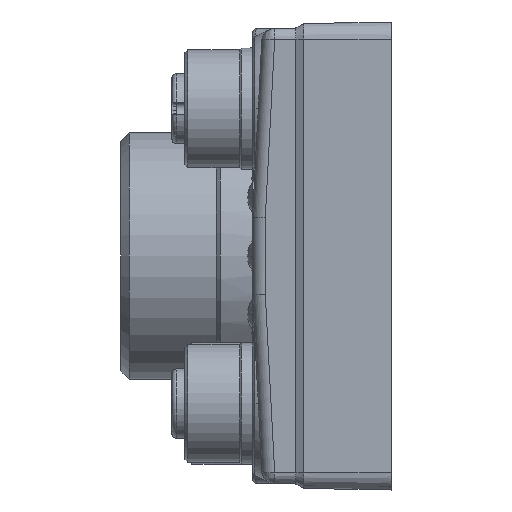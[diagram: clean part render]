
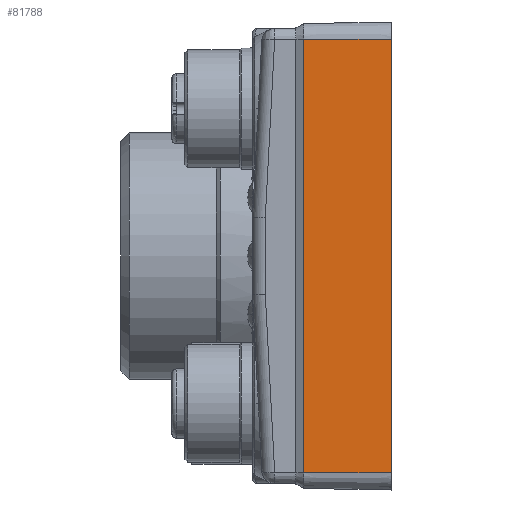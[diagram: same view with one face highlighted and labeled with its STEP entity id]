
A CAD part, left-side view. The second image highlights one B-rep face of the part: STEP entity #81788.
In plain terms, the highlighted planar face has unit normal (-1, 0.018, 0).
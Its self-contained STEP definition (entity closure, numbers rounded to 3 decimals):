
#631 = ORIENTED_EDGE ( 'NONE', *, *, #11032, .T. ) ;
#3904 = LINE ( 'NONE', #74293, #51005 ) ;
#4956 = FACE_OUTER_BOUND ( 'NONE', #66792, .T. ) ;
#7324 = DIRECTION ( 'NONE',  ( -0.017, -1., 0. ) ) ;
#10872 = VECTOR ( 'NONE', #109072, 1000. ) ;
#11032 = EDGE_CURVE ( 'NONE', #38328, #104271, #48737, .T. ) ;
#12322 = VERTEX_POINT ( 'NONE', #20487 ) ;
#15413 = LINE ( 'NONE', #69122, #119036 ) ;
#17602 = VERTEX_POINT ( 'NONE', #65748 ) ;
#20487 = CARTESIAN_POINT ( 'NONE',  ( -77.597, -0.918, 26.619 ) ) ;
#22672 = CARTESIAN_POINT ( 'NONE',  ( -77.421, 9.183, -23.381 ) ) ;
#27046 = PLANE ( 'NONE',  #108711 ) ;
#38328 = VERTEX_POINT ( 'NONE', #65305 ) ;
#44726 = CARTESIAN_POINT ( 'NONE',  ( -77.421, 9.183, -23.381 ) ) ;
#46130 = EDGE_CURVE ( 'NONE', #17602, #104271, #61105, .T. ) ;
#48737 = LINE ( 'NONE', #22672, #102170 ) ;
#51005 = VECTOR ( 'NONE', #114602, 1000. ) ;
#60238 = EDGE_CURVE ( 'NONE', #12322, #17602, #3904, .T. ) ;
#61105 = LINE ( 'NONE', #88986, #10872 ) ;
#65281 = ORIENTED_EDGE ( 'NONE', *, *, #46130, .F. ) ;
#65305 = CARTESIAN_POINT ( 'NONE',  ( -77.421, 9.183, 26.619 ) ) ;
#65748 = CARTESIAN_POINT ( 'NONE',  ( -77.597, -0.918, -23.381 ) ) ;
#66792 = EDGE_LOOP ( 'NONE', ( #65281, #106357, #86092, #631 ) ) ;
#67462 = DIRECTION ( 'NONE',  ( -1., 0.017, 0. ) ) ;
#69122 = CARTESIAN_POINT ( 'NONE',  ( -77.597, -0.918, 26.619 ) ) ;
#74293 = CARTESIAN_POINT ( 'NONE',  ( -77.597, -0.918, 24.619 ) ) ;
#81788 = ADVANCED_FACE ( 'NONE', ( #4956 ), #27046, .T. ) ;
#86092 = ORIENTED_EDGE ( 'NONE', *, *, #123280, .T. ) ;
#88986 = CARTESIAN_POINT ( 'NONE',  ( -8787.659, -499000., -23.381 ) ) ;
#93795 = DIRECTION ( 'NONE',  ( 0., 0., -1. ) ) ;
#102170 = VECTOR ( 'NONE', #93795, 1000. ) ;
#104271 = VERTEX_POINT ( 'NONE', #44726 ) ;
#106357 = ORIENTED_EDGE ( 'NONE', *, *, #60238, .F. ) ;
#108711 = AXIS2_PLACEMENT_3D ( 'NONE', #117433, #67462, #7324 ) ;
#109072 = DIRECTION ( 'NONE',  ( 0.017, 1., 0. ) ) ;
#114602 = DIRECTION ( 'NONE',  ( 0., 0., -1. ) ) ;
#117433 = CARTESIAN_POINT ( 'NONE',  ( -77.597, -0.918, -23.381 ) ) ;
#119036 = VECTOR ( 'NONE', #130088, 1000. ) ;
#123280 = EDGE_CURVE ( 'NONE', #12322, #38328, #15413, .T. ) ;
#130088 = DIRECTION ( 'NONE',  ( 0.017, 1., 0. ) ) ;
